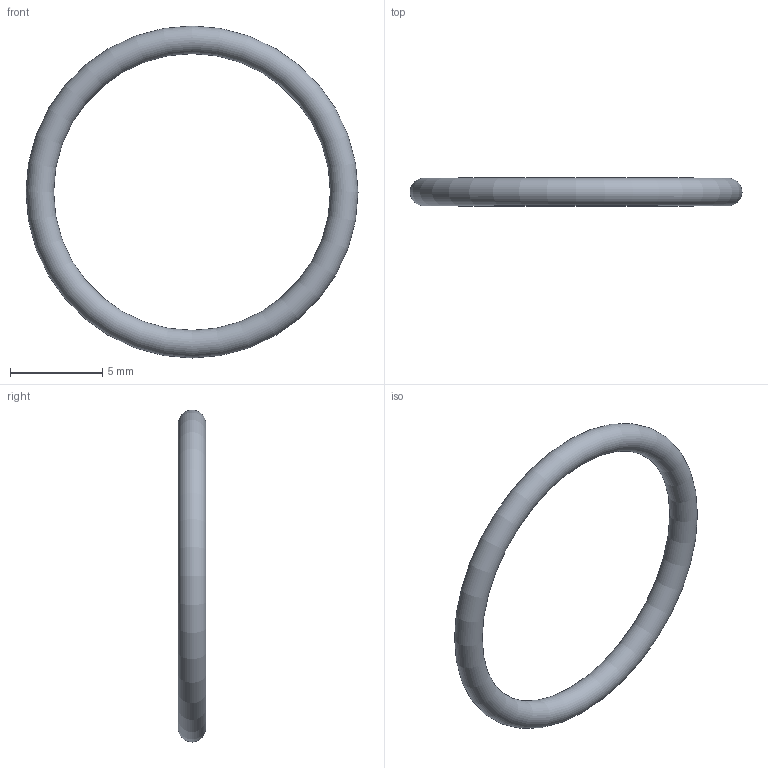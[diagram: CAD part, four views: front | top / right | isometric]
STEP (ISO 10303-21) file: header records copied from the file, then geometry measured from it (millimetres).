
FILE_DESCRIPTION( ( 'STEP AP203' ), '1' );
FILE_NAME( 'C:/Temp/Ganter_Step_05_03_2020/data/3_5/or638/O-Ring OR638-15.00-1.50-70.stp', '2020-03-12T13:44:18', ( 'License CC BY-ND 4.0' ), ( 'CADENAS' ), ' ', 'PARTsolutions', ' ' );
FILE_SCHEMA( ( 'CONFIG_CONTROL_DESIGN' ) );
Length unit declared in the file: millimetre
Products named in the file (1): _O-Ring OR638-15.00-1.50-70
Bounding box: 18 x 1.5 x 18 mm (x, y, z)
Volume: 91.6 mm3; surface area: 244.3 mm2
Topology: 1 solids, 1 shells, 1 faces, 2 edges, 1 vertices
Faces by surface type: torus 1
Entity records: 62 total; most frequent: CC_DESIGN_PERSON_AND_ORGANIZATION_ASSIGNMENT 5, PERSON_AND_ORGANIZATION_ROLE 4, DIRECTION 4, CARTESIAN_POINT 3, DATE_TIME_ROLE 2, CC_DESIGN_DATE_AND_TIME_ASSIGNMENT 2, AXIS2_PLACEMENT_3D 2, DIMENSIONAL_EXPONENTS 2
